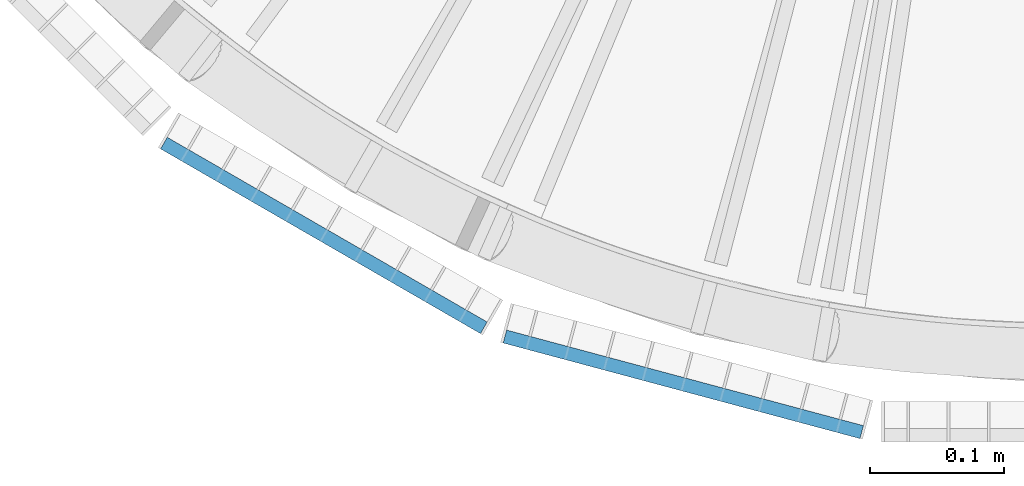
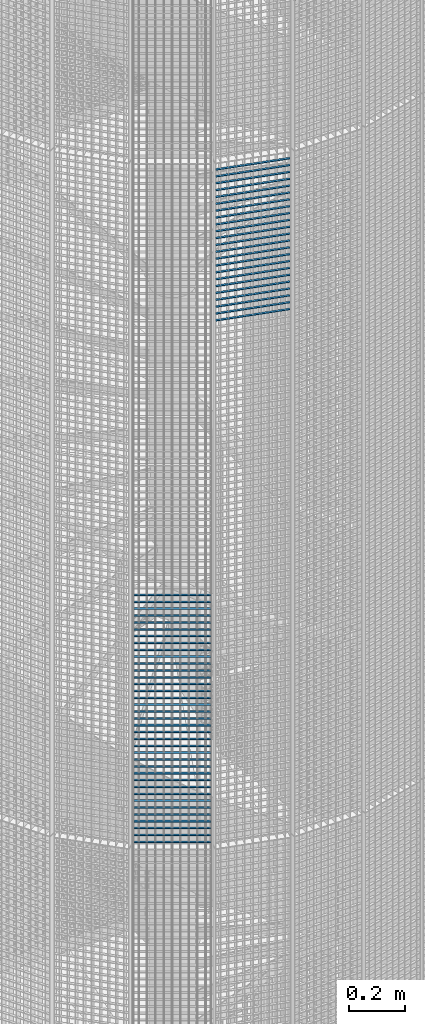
# One storey, part 338 of 1148: 60 beams, 2 elements without a shape of their own.
"""IFC2X3 building model written with IfcOpenShell, lengths in millimetres."""

from ifc_helpers import new_model, si_unit, frame, origin_with_axes, origin_2d_with_axis, place, context, subcontext, project, spatial, rectangle, extrude, material, type_object, element, aggregate, save


model = new_model("IFC2X3")

# Units and contexts
model_context = context("Model", 3, precision=1e-05, world=origin_with_axes())
body_context = subcontext(model_context, "Body", "Model", "MODEL_VIEW")
ifc_project = project(units=[si_unit("LENGTHUNIT", "METRE", prefix="MILLI"), si_unit("AREAUNIT", "SQUARE_METRE"), si_unit("VOLUMEUNIT", "CUBIC_METRE"), si_unit("MASSUNIT", "GRAM", prefix="KILO"), si_unit("TIMEUNIT", "SECOND"), si_unit("PLANEANGLEUNIT", "RADIAN"), si_unit("SOLIDANGLEUNIT", "STERADIAN"), si_unit("THERMODYNAMICTEMPERATUREUNIT", "DEGREE_CELSIUS"), si_unit("LUMINOUSINTENSITYUNIT", "LUMEN")], contexts=[model_context])

# Site, building, storey
site_placement = place(None, origin_with_axes())
site = spatial("IfcSite", under=ifc_project, at=site_placement, Name="Undefined", CompositionType="ELEMENT")
building_placement = place(site_placement, origin_with_axes())
building = spatial("IfcBuilding", under=site, at=building_placement, Name="Undefined", CompositionType="ELEMENT")
storey_placement = place(building_placement, origin_with_axes())
storey = spatial("IfcBuildingStorey", under=building, at=storey_placement, Name="Undefined", CompositionType="ELEMENT", Elevation=0.0)

# Assembly, beams
assembly_1_placement = place(storey_placement, origin_with_axes())
assembly_1 = element("IfcElementAssembly", 1, at=assembly_1_placement, inside=storey, Name="BORDURE", AssemblyPlace="NOTDEFINED", PredefinedType="NOTDEFINED")
ifc_material = material(Name="STEEL/S235JR")
beam_type = type_object("IfcBeamType", Name="PL2*10", PredefinedType="NOTDEFINED")
beam_1_placement = place(assembly_1_placement, frame((21162.7680445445, -1033.29996828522, 12720.0), z_axis=(-0.49999999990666, -0.866025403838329, 0.0), x_axis=(-0.866025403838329, 0.499999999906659, 0.0)))
beam_1 = element("IfcBeam", 2, at=beam_1_placement, type_object=beam_type, material=ifc_material, Name="ENTRETOISE", context=body_context, shape_type="SweptSolid", body=[
    extrude(rectangle(XDim=2.0, YDim=10.0, at=origin_2d_with_axis()), frame((275.999999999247, 9.09494701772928e-13, 1.53210777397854e-14), z_axis=(-1.0, 0.0, 0.0), x_axis=(0.0, -1.0, 0.0)), (0.0, 0.0, 1.0), 276.0),
])
beam_2_placement = place(assembly_1_placement, frame((21162.7680445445, -1033.29996828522, 12690.0), z_axis=(-0.49999999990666, -0.866025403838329, 0.0), x_axis=(-0.866025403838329, 0.499999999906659, 0.0)))
beam_2 = element("IfcBeam", 3, at=beam_2_placement, type_object=beam_type, material=ifc_material, Name="ENTRETOISE", context=body_context, shape_type="SweptSolid", body=[
    extrude(rectangle(XDim=2.0, YDim=10.0, at=origin_2d_with_axis()), frame((275.999999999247, 9.09494701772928e-13, 1.53210777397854e-14), z_axis=(-1.0, 0.0, 0.0), x_axis=(0.0, -1.0, 0.0)), (0.0, 0.0, 1.0), 276.0),
])
beam_3_placement = place(assembly_1_placement, frame((21162.7680445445, -1033.29996828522, 12750.0), z_axis=(-0.49999999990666, -0.866025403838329, 0.0), x_axis=(-0.866025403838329, 0.499999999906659, 0.0)))
beam_3 = element("IfcBeam", 4, at=beam_3_placement, type_object=beam_type, material=ifc_material, Name="ENTRETOISE", context=body_context, shape_type="SweptSolid", body=[
    extrude(rectangle(XDim=2.0, YDim=10.0, at=origin_2d_with_axis()), frame((275.999999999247, 9.09494701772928e-13, 1.53210777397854e-14), z_axis=(-1.0, 0.0, 0.0), x_axis=(0.0, -1.0, 0.0)), (0.0, 0.0, 1.0), 276.0),
])
beam_4_placement = place(assembly_1_placement, frame((21162.7680445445, -1033.29996828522, 12660.0), z_axis=(-0.49999999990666, -0.866025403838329, 0.0), x_axis=(-0.866025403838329, 0.499999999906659, 0.0)))
beam_4 = element("IfcBeam", 5, at=beam_4_placement, type_object=beam_type, material=ifc_material, Name="ENTRETOISE", context=body_context, shape_type="SweptSolid", body=[
    extrude(rectangle(XDim=2.0, YDim=10.0, at=origin_2d_with_axis()), frame((275.999999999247, 9.09494701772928e-13, 1.53210777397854e-14), z_axis=(-1.0, 0.0, 0.0), x_axis=(0.0, -1.0, 0.0)), (0.0, 0.0, 1.0), 276.0),
])
beam_5_placement = place(assembly_1_placement, frame((21162.7680445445, -1033.29996828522, 12630.0), z_axis=(-0.49999999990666, -0.866025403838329, 0.0), x_axis=(-0.866025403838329, 0.499999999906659, 0.0)))
beam_5 = element("IfcBeam", 6, at=beam_5_placement, type_object=beam_type, material=ifc_material, Name="ENTRETOISE", context=body_context, shape_type="SweptSolid", body=[
    extrude(rectangle(XDim=2.0, YDim=10.0, at=origin_2d_with_axis()), frame((275.999999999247, 9.09494701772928e-13, 1.53210777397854e-14), z_axis=(-1.0, 0.0, 0.0), x_axis=(0.0, -1.0, 0.0)), (0.0, 0.0, 1.0), 276.0),
])
beam_6_placement = place(assembly_1_placement, frame((21162.7680445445, -1033.29996828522, 12780.0), z_axis=(-0.49999999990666, -0.866025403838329, 0.0), x_axis=(-0.866025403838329, 0.499999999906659, 0.0)))
beam_6 = element("IfcBeam", 7, at=beam_6_placement, type_object=beam_type, material=ifc_material, Name="ENTRETOISE", context=body_context, shape_type="SweptSolid", body=[
    extrude(rectangle(XDim=2.0, YDim=10.0, at=origin_2d_with_axis()), frame((275.999999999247, 9.09494701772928e-13, 1.53210777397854e-14), z_axis=(-1.0, 0.0, 0.0), x_axis=(0.0, -1.0, 0.0)), (0.0, 0.0, 1.0), 276.0),
])
beam_7_placement = place(assembly_1_placement, frame((21162.7680445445, -1033.29996828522, 12600.0), z_axis=(-0.49999999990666, -0.866025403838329, 0.0), x_axis=(-0.866025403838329, 0.499999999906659, 0.0)))
beam_7 = element("IfcBeam", 8, at=beam_7_placement, type_object=beam_type, material=ifc_material, Name="ENTRETOISE", context=body_context, shape_type="SweptSolid", body=[
    extrude(rectangle(XDim=2.0, YDim=10.0, at=origin_2d_with_axis()), frame((275.999999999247, 9.09494701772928e-13, 1.53210777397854e-14), z_axis=(-1.0, 0.0, 0.0), x_axis=(0.0, -1.0, 0.0)), (0.0, 0.0, 1.0), 276.0),
])
beam_8_placement = place(assembly_1_placement, frame((21162.7680445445, -1033.29996828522, 12810.0), z_axis=(-0.49999999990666, -0.866025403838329, 0.0), x_axis=(-0.866025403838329, 0.499999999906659, 0.0)))
beam_8 = element("IfcBeam", 9, at=beam_8_placement, type_object=beam_type, material=ifc_material, Name="ENTRETOISE", context=body_context, shape_type="SweptSolid", body=[
    extrude(rectangle(XDim=2.0, YDim=10.0, at=origin_2d_with_axis()), frame((275.999999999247, 9.09494701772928e-13, 1.53210777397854e-14), z_axis=(-1.0, 0.0, 0.0), x_axis=(0.0, -1.0, 0.0)), (0.0, 0.0, 1.0), 276.0),
])
beam_9_placement = place(assembly_1_placement, frame((21162.7680445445, -1033.29996828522, 12570.0), z_axis=(-0.49999999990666, -0.866025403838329, 0.0), x_axis=(-0.866025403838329, 0.499999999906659, 0.0)))
beam_9 = element("IfcBeam", 10, at=beam_9_placement, type_object=beam_type, material=ifc_material, Name="ENTRETOISE", context=body_context, shape_type="SweptSolid", body=[
    extrude(rectangle(XDim=2.0, YDim=10.0, at=origin_2d_with_axis()), frame((275.999999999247, 9.09494701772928e-13, 1.53210777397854e-14), z_axis=(-1.0, 0.0, 0.0), x_axis=(0.0, -1.0, 0.0)), (0.0, 0.0, 1.0), 276.0),
])
beam_10_placement = place(assembly_1_placement, frame((21162.7680445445, -1033.29996828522, 12540.0), z_axis=(-0.49999999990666, -0.866025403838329, 0.0), x_axis=(-0.866025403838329, 0.499999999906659, 0.0)))
beam_10 = element("IfcBeam", 11, at=beam_10_placement, type_object=beam_type, material=ifc_material, Name="ENTRETOISE", context=body_context, shape_type="SweptSolid", body=[
    extrude(rectangle(XDim=2.0, YDim=10.0, at=origin_2d_with_axis()), frame((275.999999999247, 9.09494701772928e-13, 1.53210777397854e-14), z_axis=(-1.0, 0.0, 0.0), x_axis=(0.0, -1.0, 0.0)), (0.0, 0.0, 1.0), 276.0),
])
beam_11_placement = place(assembly_1_placement, frame((21162.7680445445, -1033.29996828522, 12840.0), z_axis=(-0.49999999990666, -0.866025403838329, 0.0), x_axis=(-0.866025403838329, 0.499999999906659, 0.0)))
beam_11 = element("IfcBeam", 12, at=beam_11_placement, type_object=beam_type, material=ifc_material, Name="ENTRETOISE", context=body_context, shape_type="SweptSolid", body=[
    extrude(rectangle(XDim=2.0, YDim=10.0, at=origin_2d_with_axis()), frame((275.999999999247, 9.09494701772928e-13, 1.53210777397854e-14), z_axis=(-1.0, 0.0, 0.0), x_axis=(0.0, -1.0, 0.0)), (0.0, 0.0, 1.0), 276.0),
])
beam_12_placement = place(assembly_1_placement, frame((21162.7680445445, -1033.29996828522, 12510.0), z_axis=(-0.49999999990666, -0.866025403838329, 0.0), x_axis=(-0.866025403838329, 0.499999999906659, 0.0)))
beam_12 = element("IfcBeam", 13, at=beam_12_placement, type_object=beam_type, material=ifc_material, Name="ENTRETOISE", context=body_context, shape_type="SweptSolid", body=[
    extrude(rectangle(XDim=2.0, YDim=10.0, at=origin_2d_with_axis()), frame((275.999999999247, 9.09494701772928e-13, 1.53210777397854e-14), z_axis=(-1.0, 0.0, 0.0), x_axis=(0.0, -1.0, 0.0)), (0.0, 0.0, 1.0), 276.0),
])
beam_13_placement = place(assembly_1_placement, frame((21162.7680445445, -1033.29996828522, 12480.0), z_axis=(-0.49999999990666, -0.866025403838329, 0.0), x_axis=(-0.866025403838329, 0.499999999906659, 0.0)))
beam_13 = element("IfcBeam", 14, at=beam_13_placement, type_object=beam_type, material=ifc_material, Name="ENTRETOISE", context=body_context, shape_type="SweptSolid", body=[
    extrude(rectangle(XDim=2.0, YDim=10.0, at=origin_2d_with_axis()), frame((275.999999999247, 9.09494701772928e-13, 1.53210777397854e-14), z_axis=(-1.0, 0.0, 0.0), x_axis=(0.0, -1.0, 0.0)), (0.0, 0.0, 1.0), 276.0),
])
beam_14_placement = place(assembly_1_placement, frame((21162.7680445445, -1033.29996828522, 12870.0), z_axis=(-0.49999999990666, -0.866025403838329, 0.0), x_axis=(-0.866025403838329, 0.499999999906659, 0.0)))
beam_14 = element("IfcBeam", 15, at=beam_14_placement, type_object=beam_type, material=ifc_material, Name="ENTRETOISE", context=body_context, shape_type="SweptSolid", body=[
    extrude(rectangle(XDim=2.0, YDim=10.0, at=origin_2d_with_axis()), frame((275.999999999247, 9.09494701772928e-13, 1.53210777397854e-14), z_axis=(-1.0, 0.0, 0.0), x_axis=(0.0, -1.0, 0.0)), (0.0, 0.0, 1.0), 276.0),
])
beam_15_placement = place(assembly_1_placement, frame((21162.7680445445, -1033.29996828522, 12450.0), z_axis=(-0.49999999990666, -0.866025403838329, 0.0), x_axis=(-0.866025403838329, 0.499999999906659, 0.0)))
beam_15 = element("IfcBeam", 16, at=beam_15_placement, type_object=beam_type, material=ifc_material, Name="ENTRETOISE", context=body_context, shape_type="SweptSolid", body=[
    extrude(rectangle(XDim=2.0, YDim=10.0, at=origin_2d_with_axis()), frame((275.999999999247, 9.09494701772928e-13, 1.53210777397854e-14), z_axis=(-1.0, 0.0, 0.0), x_axis=(0.0, -1.0, 0.0)), (0.0, 0.0, 1.0), 276.0),
])
beam_16_placement = place(assembly_1_placement, frame((21162.7680445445, -1033.29996828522, 12420.0), z_axis=(-0.49999999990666, -0.866025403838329, 0.0), x_axis=(-0.866025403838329, 0.499999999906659, 0.0)))
beam_16 = element("IfcBeam", 17, at=beam_16_placement, type_object=beam_type, material=ifc_material, Name="ENTRETOISE", context=body_context, shape_type="SweptSolid", body=[
    extrude(rectangle(XDim=2.0, YDim=10.0, at=origin_2d_with_axis()), frame((275.999999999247, 9.09494701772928e-13, 1.53210777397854e-14), z_axis=(-1.0, 0.0, 0.0), x_axis=(0.0, -1.0, 0.0)), (0.0, 0.0, 1.0), 276.0),
])
beam_17_placement = place(assembly_1_placement, frame((21162.7680445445, -1033.29996828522, 12900.0), z_axis=(-0.49999999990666, -0.866025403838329, 0.0), x_axis=(-0.866025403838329, 0.499999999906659, 0.0)))
beam_17 = element("IfcBeam", 18, at=beam_17_placement, type_object=beam_type, material=ifc_material, Name="ENTRETOISE", context=body_context, shape_type="SweptSolid", body=[
    extrude(rectangle(XDim=2.0, YDim=10.0, at=origin_2d_with_axis()), frame((275.999999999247, 9.09494701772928e-13, 1.53210777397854e-14), z_axis=(-1.0, 0.0, 0.0), x_axis=(0.0, -1.0, 0.0)), (0.0, 0.0, 1.0), 276.0),
])
beam_18_placement = place(assembly_1_placement, frame((21162.7680445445, -1033.29996828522, 12390.0), z_axis=(-0.49999999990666, -0.866025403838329, 0.0), x_axis=(-0.866025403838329, 0.499999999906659, 0.0)))
beam_18 = element("IfcBeam", 19, at=beam_18_placement, type_object=beam_type, material=ifc_material, Name="ENTRETOISE", context=body_context, shape_type="SweptSolid", body=[
    extrude(rectangle(XDim=2.0, YDim=10.0, at=origin_2d_with_axis()), frame((275.999999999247, 9.09494701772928e-13, 1.53210777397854e-14), z_axis=(-1.0, 0.0, 0.0), x_axis=(0.0, -1.0, 0.0)), (0.0, 0.0, 1.0), 276.0),
])
beam_19_placement = place(assembly_1_placement, frame((21162.7680445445, -1033.29996828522, 12930.0), z_axis=(-0.49999999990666, -0.866025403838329, 0.0), x_axis=(-0.866025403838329, 0.499999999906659, 0.0)))
beam_19 = element("IfcBeam", 20, at=beam_19_placement, type_object=beam_type, material=ifc_material, Name="ENTRETOISE", context=body_context, shape_type="SweptSolid", body=[
    extrude(rectangle(XDim=2.0, YDim=10.0, at=origin_2d_with_axis()), frame((275.999999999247, 9.09494701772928e-13, 1.53210777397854e-14), z_axis=(-1.0, 0.0, 0.0), x_axis=(0.0, -1.0, 0.0)), (0.0, 0.0, 1.0), 276.0),
])
beam_20_placement = place(assembly_1_placement, frame((21162.7680445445, -1033.29996828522, 12360.0), z_axis=(-0.49999999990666, -0.866025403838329, 0.0), x_axis=(-0.866025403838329, 0.499999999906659, 0.0)))
beam_20 = element("IfcBeam", 21, at=beam_20_placement, type_object=beam_type, material=ifc_material, Name="ENTRETOISE", context=body_context, shape_type="SweptSolid", body=[
    extrude(rectangle(XDim=2.0, YDim=10.0, at=origin_2d_with_axis()), frame((275.999999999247, 9.09494701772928e-13, 1.53210777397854e-14), z_axis=(-1.0, 0.0, 0.0), x_axis=(0.0, -1.0, 0.0)), (0.0, 0.0, 1.0), 276.0),
])
beam_21_placement = place(assembly_1_placement, frame((21162.7680445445, -1033.29996828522, 12330.0), z_axis=(-0.49999999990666, -0.866025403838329, 0.0), x_axis=(-0.866025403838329, 0.499999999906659, 0.0)))
beam_21 = element("IfcBeam", 22, at=beam_21_placement, type_object=beam_type, material=ifc_material, Name="ENTRETOISE", context=body_context, shape_type="SweptSolid", body=[
    extrude(rectangle(XDim=2.0, YDim=10.0, at=origin_2d_with_axis()), frame((275.999999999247, 9.09494701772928e-13, 1.53210777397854e-14), z_axis=(-1.0, 0.0, 0.0), x_axis=(0.0, -1.0, 0.0)), (0.0, 0.0, 1.0), 276.0),
])
beam_22_placement = place(assembly_1_placement, frame((21162.7680445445, -1033.29996828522, 12960.0), z_axis=(-0.49999999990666, -0.866025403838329, 0.0), x_axis=(-0.866025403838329, 0.499999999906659, 0.0)))
beam_22 = element("IfcBeam", 23, at=beam_22_placement, type_object=beam_type, material=ifc_material, Name="ENTRETOISE", context=body_context, shape_type="SweptSolid", body=[
    extrude(rectangle(XDim=2.0, YDim=10.0, at=origin_2d_with_axis()), frame((275.999999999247, 9.09494701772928e-13, 1.53210777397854e-14), z_axis=(-1.0, 0.0, 0.0), x_axis=(0.0, -1.0, 0.0)), (0.0, 0.0, 1.0), 276.0),
])
beam_23_placement = place(assembly_1_placement, frame((21162.7680445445, -1033.29996828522, 12300.0), z_axis=(-0.49999999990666, -0.866025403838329, 0.0), x_axis=(-0.866025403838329, 0.499999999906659, 0.0)))
beam_23 = element("IfcBeam", 24, at=beam_23_placement, type_object=beam_type, material=ifc_material, Name="ENTRETOISE", context=body_context, shape_type="SweptSolid", body=[
    extrude(rectangle(XDim=2.0, YDim=10.0, at=origin_2d_with_axis()), frame((275.999999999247, 9.09494701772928e-13, 1.53210777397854e-14), z_axis=(-1.0, 0.0, 0.0), x_axis=(0.0, -1.0, 0.0)), (0.0, 0.0, 1.0), 276.0),
])
beam_24_placement = place(assembly_1_placement, frame((21162.7680445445, -1033.29996828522, 12270.0), z_axis=(-0.49999999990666, -0.866025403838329, 0.0), x_axis=(-0.866025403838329, 0.499999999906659, 0.0)))
beam_24 = element("IfcBeam", 25, at=beam_24_placement, type_object=beam_type, material=ifc_material, Name="ENTRETOISE", context=body_context, shape_type="SweptSolid", body=[
    extrude(rectangle(XDim=2.0, YDim=10.0, at=origin_2d_with_axis()), frame((275.999999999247, 9.09494701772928e-13, 1.53210777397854e-14), z_axis=(-1.0, 0.0, 0.0), x_axis=(0.0, -1.0, 0.0)), (0.0, 0.0, 1.0), 276.0),
])
beam_25_placement = place(assembly_1_placement, frame((21162.7680445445, -1033.29996828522, 12990.0), z_axis=(-0.49999999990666, -0.866025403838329, 0.0), x_axis=(-0.866025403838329, 0.499999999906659, 0.0)))
beam_25 = element("IfcBeam", 26, at=beam_25_placement, type_object=beam_type, material=ifc_material, Name="ENTRETOISE", context=body_context, shape_type="SweptSolid", body=[
    extrude(rectangle(XDim=2.0, YDim=10.0, at=origin_2d_with_axis()), frame((275.999999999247, 9.09494701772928e-13, 1.53210777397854e-14), z_axis=(-1.0, 0.0, 0.0), x_axis=(0.0, -1.0, 0.0)), (0.0, 0.0, 1.0), 276.0),
])
beam_26_placement = place(assembly_1_placement, frame((21162.7680445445, -1033.29996828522, 12240.0), z_axis=(-0.49999999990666, -0.866025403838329, 0.0), x_axis=(-0.866025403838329, 0.499999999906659, 0.0)))
beam_26 = element("IfcBeam", 27, at=beam_26_placement, type_object=beam_type, material=ifc_material, Name="ENTRETOISE", context=body_context, shape_type="SweptSolid", body=[
    extrude(rectangle(XDim=2.0, YDim=10.0, at=origin_2d_with_axis()), frame((275.999999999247, 9.09494701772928e-13, 1.53210777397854e-14), z_axis=(-1.0, 0.0, 0.0), x_axis=(0.0, -1.0, 0.0)), (0.0, 0.0, 1.0), 276.0),
])
beam_27_placement = place(assembly_1_placement, frame((21162.7680445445, -1033.29996828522, 13020.0), z_axis=(-0.49999999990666, -0.866025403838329, 0.0), x_axis=(-0.866025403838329, 0.499999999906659, 0.0)))
beam_27 = element("IfcBeam", 28, at=beam_27_placement, type_object=beam_type, material=ifc_material, Name="ENTRETOISE", context=body_context, shape_type="SweptSolid", body=[
    extrude(rectangle(XDim=2.0, YDim=10.0, at=origin_2d_with_axis()), frame((275.999999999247, 9.09494701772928e-13, 1.53210777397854e-14), z_axis=(-1.0, 0.0, 0.0), x_axis=(0.0, -1.0, 0.0)), (0.0, 0.0, 1.0), 276.0),
])
beam_28_placement = place(assembly_1_placement, frame((21162.7680445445, -1033.29996828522, 12210.0), z_axis=(-0.49999999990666, -0.866025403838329, 0.0), x_axis=(-0.866025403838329, 0.499999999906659, 0.0)))
beam_28 = element("IfcBeam", 29, at=beam_28_placement, type_object=beam_type, material=ifc_material, Name="ENTRETOISE", context=body_context, shape_type="SweptSolid", body=[
    extrude(rectangle(XDim=2.0, YDim=10.0, at=origin_2d_with_axis()), frame((275.999999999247, 9.09494701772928e-13, 1.53210777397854e-14), z_axis=(-1.0, 0.0, 0.0), x_axis=(0.0, -1.0, 0.0)), (0.0, 0.0, 1.0), 276.0),
])
beam_29_placement = place(assembly_1_placement, frame((21162.7680445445, -1033.29996828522, 12180.0), z_axis=(-0.49999999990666, -0.866025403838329, 0.0), x_axis=(-0.866025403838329, 0.499999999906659, 0.0)))
beam_29 = element("IfcBeam", 30, at=beam_29_placement, type_object=beam_type, material=ifc_material, Name="ENTRETOISE", context=body_context, shape_type="SweptSolid", body=[
    extrude(rectangle(XDim=2.0, YDim=10.0, at=origin_2d_with_axis()), frame((275.999999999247, 9.09494701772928e-13, 1.53210777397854e-14), z_axis=(-1.0, 0.0, 0.0), x_axis=(0.0, -1.0, 0.0)), (0.0, 0.0, 1.0), 276.0),
])
beam_30_placement = place(assembly_1_placement, frame((21162.7680445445, -1033.29996828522, 13050.0), z_axis=(-0.49999999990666, -0.866025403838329, 0.0), x_axis=(-0.866025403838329, 0.499999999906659, 0.0)))
beam_30 = element("IfcBeam", 31, at=beam_30_placement, type_object=beam_type, material=ifc_material, Name="ENTRETOISE", context=body_context, shape_type="SweptSolid", body=[
    extrude(rectangle(XDim=2.0, YDim=10.0, at=origin_2d_with_axis()), frame((275.999999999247, 9.09494701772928e-13, 1.53210777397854e-14), z_axis=(-1.0, 0.0, 0.0), x_axis=(0.0, -1.0, 0.0)), (0.0, 0.0, 1.0), 276.0),
])
beam_31_placement = place(assembly_1_placement, frame((21162.7680445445, -1033.29996828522, 12150.0), z_axis=(-0.49999999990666, -0.866025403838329, 0.0), x_axis=(-0.866025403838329, 0.499999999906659, 0.0)))
beam_31 = element("IfcBeam", 32, at=beam_31_placement, type_object=beam_type, material=ifc_material, Name="ENTRETOISE", context=body_context, shape_type="SweptSolid", body=[
    extrude(rectangle(XDim=2.0, YDim=10.0, at=origin_2d_with_axis()), frame((275.999999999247, 9.09494701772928e-13, 1.53210777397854e-14), z_axis=(-1.0, 0.0, 0.0), x_axis=(0.0, -1.0, 0.0)), (0.0, 0.0, 1.0), 276.0),
])
beam_32_placement = place(assembly_1_placement, frame((21162.7680445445, -1033.29996828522, 12120.0), z_axis=(-0.49999999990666, -0.866025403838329, 0.0), x_axis=(-0.866025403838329, 0.499999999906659, 0.0)))
beam_32 = element("IfcBeam", 33, at=beam_32_placement, type_object=beam_type, material=ifc_material, Name="ENTRETOISE", context=body_context, shape_type="SweptSolid", body=[
    extrude(rectangle(XDim=2.0, YDim=10.0, at=origin_2d_with_axis()), frame((275.999999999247, 9.09494701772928e-13, 1.53210777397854e-14), z_axis=(-1.0, 0.0, 0.0), x_axis=(0.0, -1.0, 0.0)), (0.0, 0.0, 1.0), 276.0),
])
beam_33_placement = place(assembly_1_placement, frame((21162.7680445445, -1033.29996828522, 13080.0), z_axis=(-0.49999999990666, -0.866025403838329, 0.0), x_axis=(-0.866025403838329, 0.499999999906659, 0.0)))
beam_33 = element("IfcBeam", 34, at=beam_33_placement, type_object=beam_type, material=ifc_material, Name="ENTRETOISE", context=body_context, shape_type="SweptSolid", body=[
    extrude(rectangle(XDim=2.0, YDim=10.0, at=origin_2d_with_axis()), frame((275.999999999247, 9.09494701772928e-13, 1.53210777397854e-14), z_axis=(-1.0, 0.0, 0.0), x_axis=(0.0, -1.0, 0.0)), (0.0, 0.0, 1.0), 276.0),
])
beam_34_placement = place(assembly_1_placement, frame((21162.7680445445, -1033.29996828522, 12090.0), z_axis=(-0.49999999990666, -0.866025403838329, 0.0), x_axis=(-0.866025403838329, 0.499999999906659, 0.0)))
beam_34 = element("IfcBeam", 35, at=beam_34_placement, type_object=beam_type, material=ifc_material, Name="ENTRETOISE", context=body_context, shape_type="SweptSolid", body=[
    extrude(rectangle(XDim=2.0, YDim=10.0, at=origin_2d_with_axis()), frame((275.999999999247, 9.09494701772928e-13, 1.53210777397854e-14), z_axis=(-1.0, 0.0, 0.0), x_axis=(0.0, -1.0, 0.0)), (0.0, 0.0, 1.0), 276.0),
])
beam_35_placement = place(assembly_1_placement, frame((21162.7680445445, -1033.29996828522, 12060.0), z_axis=(-0.49999999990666, -0.866025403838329, 0.0), x_axis=(-0.866025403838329, 0.499999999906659, 0.0)))
beam_35 = element("IfcBeam", 36, at=beam_35_placement, type_object=beam_type, material=ifc_material, Name="ENTRETOISE", context=body_context, shape_type="SweptSolid", body=[
    extrude(rectangle(XDim=2.0, YDim=10.0, at=origin_2d_with_axis()), frame((275.999999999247, 9.09494701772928e-13, 1.53210777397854e-14), z_axis=(-1.0, 0.0, 0.0), x_axis=(0.0, -1.0, 0.0)), (0.0, 0.0, 1.0), 276.0),
])
beam_36_placement = place(assembly_1_placement, frame((21162.7680445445, -1033.29996828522, 13110.0), z_axis=(-0.49999999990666, -0.866025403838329, 0.0), x_axis=(-0.866025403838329, 0.499999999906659, 0.0)))
beam_36 = element("IfcBeam", 37, at=beam_36_placement, type_object=beam_type, material=ifc_material, Name="ENTRETOISE", context=body_context, shape_type="SweptSolid", body=[
    extrude(rectangle(XDim=2.0, YDim=10.0, at=origin_2d_with_axis()), frame((275.999999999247, 9.09494701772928e-13, 1.53210777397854e-14), z_axis=(-1.0, 0.0, 0.0), x_axis=(0.0, -1.0, 0.0)), (0.0, 0.0, 1.0), 276.0),
])
beam_37_placement = place(assembly_1_placement, frame((21162.7680445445, -1033.29996828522, 12030.0), z_axis=(-0.49999999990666, -0.866025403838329, 0.0), x_axis=(-0.866025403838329, 0.499999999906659, 0.0)))
beam_37 = element("IfcBeam", 38, at=beam_37_placement, type_object=beam_type, material=ifc_material, Name="ENTRETOISE", context=body_context, shape_type="SweptSolid", body=[
    extrude(rectangle(XDim=2.0, YDim=10.0, at=origin_2d_with_axis()), frame((275.999999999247, 9.09494701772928e-13, 1.53210777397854e-14), z_axis=(-1.0, 0.0, 0.0), x_axis=(0.0, -1.0, 0.0)), (0.0, 0.0, 1.0), 276.0),
])
aggregate(assembly_1, [beam_1, beam_2, beam_3, beam_4, beam_5, beam_6, beam_7, beam_8, beam_9, beam_10, beam_11, beam_12, beam_13, beam_14, beam_15, beam_16, beam_17, beam_18, beam_19, beam_20, beam_21, beam_22, beam_23, beam_24, beam_25, beam_26, beam_27, beam_28, beam_29, beam_30, beam_31, beam_32, beam_33, beam_34, beam_35, beam_36, beam_37])

assembly_2_placement = place(storey_placement, origin_with_axes())
assembly_2 = element("IfcElementAssembly", 39, at=assembly_2_placement, inside=storey, Name="BORDURE", AssemblyPlace="NOTDEFINED", PredefinedType="NOTDEFINED")
beam_38_placement = place(assembly_2_placement, frame((21445.1040732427, -1111.25508286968, 14970.0), z_axis=(-0.258819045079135, -0.965925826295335, 0.0), x_axis=(-0.965925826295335, 0.258819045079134, 0.0)))
beam_38 = element("IfcBeam", 40, at=beam_38_placement, type_object=beam_type, material=ifc_material, Name="ENTRETOISE", context=body_context, shape_type="SweptSolid", body=[
    extrude(rectangle(XDim=2.0, YDim=10.0, at=origin_2d_with_axis()), frame((275.999999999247, 9.09494701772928e-13, 1.53210777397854e-14), z_axis=(-1.0, 0.0, 0.0), x_axis=(0.0, -1.0, 0.0)), (0.0, 0.0, 1.0), 276.0),
])
beam_39_placement = place(assembly_2_placement, frame((21445.1040732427, -1111.25508286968, 14940.0), z_axis=(-0.258819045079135, -0.965925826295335, 0.0), x_axis=(-0.965925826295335, 0.258819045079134, 0.0)))
beam_39 = element("IfcBeam", 41, at=beam_39_placement, type_object=beam_type, material=ifc_material, Name="ENTRETOISE", context=body_context, shape_type="SweptSolid", body=[
    extrude(rectangle(XDim=2.0, YDim=10.0, at=origin_2d_with_axis()), frame((275.999999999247, 9.09494701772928e-13, 1.53210777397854e-14), z_axis=(-1.0, 0.0, 0.0), x_axis=(0.0, -1.0, 0.0)), (0.0, 0.0, 1.0), 276.0),
])
beam_40_placement = place(assembly_2_placement, frame((21445.1040732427, -1111.25508286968, 14910.0), z_axis=(-0.258819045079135, -0.965925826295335, 0.0), x_axis=(-0.965925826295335, 0.258819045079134, 0.0)))
beam_40 = element("IfcBeam", 42, at=beam_40_placement, type_object=beam_type, material=ifc_material, Name="ENTRETOISE", context=body_context, shape_type="SweptSolid", body=[
    extrude(rectangle(XDim=2.0, YDim=10.0, at=origin_2d_with_axis()), frame((275.999999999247, 9.09494701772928e-13, 1.53210777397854e-14), z_axis=(-1.0, 0.0, 0.0), x_axis=(0.0, -1.0, 0.0)), (0.0, 0.0, 1.0), 276.0),
])
beam_41_placement = place(assembly_2_placement, frame((21445.1040732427, -1111.25508286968, 14880.0), z_axis=(-0.258819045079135, -0.965925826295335, 0.0), x_axis=(-0.965925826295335, 0.258819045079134, 0.0)))
beam_41 = element("IfcBeam", 43, at=beam_41_placement, type_object=beam_type, material=ifc_material, Name="ENTRETOISE", context=body_context, shape_type="SweptSolid", body=[
    extrude(rectangle(XDim=2.0, YDim=10.0, at=origin_2d_with_axis()), frame((275.999999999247, 9.09494701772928e-13, 1.53210777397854e-14), z_axis=(-1.0, 0.0, 0.0), x_axis=(0.0, -1.0, 0.0)), (0.0, 0.0, 1.0), 276.0),
])
beam_42_placement = place(assembly_2_placement, frame((21445.1040732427, -1111.25508286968, 14850.0), z_axis=(-0.258819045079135, -0.965925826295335, 0.0), x_axis=(-0.965925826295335, 0.258819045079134, 0.0)))
beam_42 = element("IfcBeam", 44, at=beam_42_placement, type_object=beam_type, material=ifc_material, Name="ENTRETOISE", context=body_context, shape_type="SweptSolid", body=[
    extrude(rectangle(XDim=2.0, YDim=10.0, at=origin_2d_with_axis()), frame((275.999999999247, 9.09494701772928e-13, 1.53210777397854e-14), z_axis=(-1.0, 0.0, 0.0), x_axis=(0.0, -1.0, 0.0)), (0.0, 0.0, 1.0), 276.0),
])
beam_43_placement = place(assembly_2_placement, frame((21445.1040732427, -1111.25508286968, 14820.0), z_axis=(-0.258819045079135, -0.965925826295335, 0.0), x_axis=(-0.965925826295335, 0.258819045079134, 0.0)))
beam_43 = element("IfcBeam", 45, at=beam_43_placement, type_object=beam_type, material=ifc_material, Name="ENTRETOISE", context=body_context, shape_type="SweptSolid", body=[
    extrude(rectangle(XDim=2.0, YDim=10.0, at=origin_2d_with_axis()), frame((275.999999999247, 9.09494701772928e-13, 1.53210777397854e-14), z_axis=(-1.0, 0.0, 0.0), x_axis=(0.0, -1.0, 0.0)), (0.0, 0.0, 1.0), 276.0),
])
beam_44_placement = place(assembly_2_placement, frame((21445.1040732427, -1111.25508286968, 14790.0), z_axis=(-0.258819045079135, -0.965925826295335, 0.0), x_axis=(-0.965925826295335, 0.258819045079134, 0.0)))
beam_44 = element("IfcBeam", 46, at=beam_44_placement, type_object=beam_type, material=ifc_material, Name="ENTRETOISE", context=body_context, shape_type="SweptSolid", body=[
    extrude(rectangle(XDim=2.0, YDim=10.0, at=origin_2d_with_axis()), frame((275.999999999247, 9.09494701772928e-13, 1.53210777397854e-14), z_axis=(-1.0, 0.0, 0.0), x_axis=(0.0, -1.0, 0.0)), (0.0, 0.0, 1.0), 276.0),
])
beam_45_placement = place(assembly_2_placement, frame((21445.1040732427, -1111.25508286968, 14760.0), z_axis=(-0.258819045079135, -0.965925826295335, 0.0), x_axis=(-0.965925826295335, 0.258819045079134, 0.0)))
beam_45 = element("IfcBeam", 47, at=beam_45_placement, type_object=beam_type, material=ifc_material, Name="ENTRETOISE", context=body_context, shape_type="SweptSolid", body=[
    extrude(rectangle(XDim=2.0, YDim=10.0, at=origin_2d_with_axis()), frame((275.999999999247, 9.09494701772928e-13, 1.53210777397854e-14), z_axis=(-1.0, 0.0, 0.0), x_axis=(0.0, -1.0, 0.0)), (0.0, 0.0, 1.0), 276.0),
])
beam_46_placement = place(assembly_2_placement, frame((21445.1040732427, -1111.25508286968, 14730.0), z_axis=(-0.258819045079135, -0.965925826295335, 0.0), x_axis=(-0.965925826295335, 0.258819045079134, 0.0)))
beam_46 = element("IfcBeam", 48, at=beam_46_placement, type_object=beam_type, material=ifc_material, Name="ENTRETOISE", context=body_context, shape_type="SweptSolid", body=[
    extrude(rectangle(XDim=2.0, YDim=10.0, at=origin_2d_with_axis()), frame((275.999999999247, 9.09494701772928e-13, 1.53210777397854e-14), z_axis=(-1.0, 0.0, 0.0), x_axis=(0.0, -1.0, 0.0)), (0.0, 0.0, 1.0), 276.0),
])
beam_47_placement = place(assembly_2_placement, frame((21445.1040732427, -1111.25508286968, 14700.0), z_axis=(-0.258819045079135, -0.965925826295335, 0.0), x_axis=(-0.965925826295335, 0.258819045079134, 0.0)))
beam_47 = element("IfcBeam", 49, at=beam_47_placement, type_object=beam_type, material=ifc_material, Name="ENTRETOISE", context=body_context, shape_type="SweptSolid", body=[
    extrude(rectangle(XDim=2.0, YDim=10.0, at=origin_2d_with_axis()), frame((275.999999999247, 9.09494701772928e-13, 1.53210777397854e-14), z_axis=(-1.0, 0.0, 0.0), x_axis=(0.0, -1.0, 0.0)), (0.0, 0.0, 1.0), 276.0),
])
beam_48_placement = place(assembly_2_placement, frame((21445.1040732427, -1111.25508286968, 14670.0), z_axis=(-0.258819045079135, -0.965925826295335, 0.0), x_axis=(-0.965925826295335, 0.258819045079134, 0.0)))
beam_48 = element("IfcBeam", 50, at=beam_48_placement, type_object=beam_type, material=ifc_material, Name="ENTRETOISE", context=body_context, shape_type="SweptSolid", body=[
    extrude(rectangle(XDim=2.0, YDim=10.0, at=origin_2d_with_axis()), frame((275.999999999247, 9.09494701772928e-13, 1.53210777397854e-14), z_axis=(-1.0, 0.0, 0.0), x_axis=(0.0, -1.0, 0.0)), (0.0, 0.0, 1.0), 276.0),
])
beam_49_placement = place(assembly_2_placement, frame((21445.1040732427, -1111.25508286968, 14640.0), z_axis=(-0.258819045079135, -0.965925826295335, 0.0), x_axis=(-0.965925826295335, 0.258819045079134, 0.0)))
beam_49 = element("IfcBeam", 51, at=beam_49_placement, type_object=beam_type, material=ifc_material, Name="ENTRETOISE", context=body_context, shape_type="SweptSolid", body=[
    extrude(rectangle(XDim=2.0, YDim=10.0, at=origin_2d_with_axis()), frame((275.999999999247, 9.09494701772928e-13, 1.53210777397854e-14), z_axis=(-1.0, 0.0, 0.0), x_axis=(0.0, -1.0, 0.0)), (0.0, 0.0, 1.0), 276.0),
])
beam_50_placement = place(assembly_2_placement, frame((21445.1040732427, -1111.25508286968, 14610.0), z_axis=(-0.258819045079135, -0.965925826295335, 0.0), x_axis=(-0.965925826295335, 0.258819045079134, 0.0)))
beam_50 = element("IfcBeam", 52, at=beam_50_placement, type_object=beam_type, material=ifc_material, Name="ENTRETOISE", context=body_context, shape_type="SweptSolid", body=[
    extrude(rectangle(XDim=2.0, YDim=10.0, at=origin_2d_with_axis()), frame((275.999999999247, 9.09494701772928e-13, 1.53210777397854e-14), z_axis=(-1.0, 0.0, 0.0), x_axis=(0.0, -1.0, 0.0)), (0.0, 0.0, 1.0), 276.0),
])
beam_51_placement = place(assembly_2_placement, frame((21445.1040732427, -1111.25508286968, 14580.0), z_axis=(-0.258819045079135, -0.965925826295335, 0.0), x_axis=(-0.965925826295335, 0.258819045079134, 0.0)))
beam_51 = element("IfcBeam", 53, at=beam_51_placement, type_object=beam_type, material=ifc_material, Name="ENTRETOISE", context=body_context, shape_type="SweptSolid", body=[
    extrude(rectangle(XDim=2.0, YDim=10.0, at=origin_2d_with_axis()), frame((275.999999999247, 9.09494701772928e-13, 1.53210777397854e-14), z_axis=(-1.0, 0.0, 0.0), x_axis=(0.0, -1.0, 0.0)), (0.0, 0.0, 1.0), 276.0),
])
beam_52_placement = place(assembly_2_placement, frame((21445.1040732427, -1111.25508286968, 14550.0), z_axis=(-0.258819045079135, -0.965925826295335, 0.0), x_axis=(-0.965925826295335, 0.258819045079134, 0.0)))
beam_52 = element("IfcBeam", 54, at=beam_52_placement, type_object=beam_type, material=ifc_material, Name="ENTRETOISE", context=body_context, shape_type="SweptSolid", body=[
    extrude(rectangle(XDim=2.0, YDim=10.0, at=origin_2d_with_axis()), frame((275.999999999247, 9.09494701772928e-13, 1.53210777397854e-14), z_axis=(-1.0, 0.0, 0.0), x_axis=(0.0, -1.0, 0.0)), (0.0, 0.0, 1.0), 276.0),
])
beam_53_placement = place(assembly_2_placement, frame((21445.1040732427, -1111.25508286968, 14520.0), z_axis=(-0.258819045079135, -0.965925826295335, 0.0), x_axis=(-0.965925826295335, 0.258819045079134, 0.0)))
beam_53 = element("IfcBeam", 55, at=beam_53_placement, type_object=beam_type, material=ifc_material, Name="ENTRETOISE", context=body_context, shape_type="SweptSolid", body=[
    extrude(rectangle(XDim=2.0, YDim=10.0, at=origin_2d_with_axis()), frame((275.999999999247, 9.09494701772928e-13, 1.53210777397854e-14), z_axis=(-1.0, 0.0, 0.0), x_axis=(0.0, -1.0, 0.0)), (0.0, 0.0, 1.0), 276.0),
])
beam_54_placement = place(assembly_2_placement, frame((21445.1040732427, -1111.25508286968, 14490.0), z_axis=(-0.258819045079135, -0.965925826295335, 0.0), x_axis=(-0.965925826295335, 0.258819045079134, 0.0)))
beam_54 = element("IfcBeam", 56, at=beam_54_placement, type_object=beam_type, material=ifc_material, Name="ENTRETOISE", context=body_context, shape_type="SweptSolid", body=[
    extrude(rectangle(XDim=2.0, YDim=10.0, at=origin_2d_with_axis()), frame((275.999999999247, 9.09494701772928e-13, 1.53210777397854e-14), z_axis=(-1.0, 0.0, 0.0), x_axis=(0.0, -1.0, 0.0)), (0.0, 0.0, 1.0), 276.0),
])
beam_55_placement = place(assembly_2_placement, frame((21445.1040732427, -1111.25508286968, 14460.0), z_axis=(-0.258819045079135, -0.965925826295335, 0.0), x_axis=(-0.965925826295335, 0.258819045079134, 0.0)))
beam_55 = element("IfcBeam", 57, at=beam_55_placement, type_object=beam_type, material=ifc_material, Name="ENTRETOISE", context=body_context, shape_type="SweptSolid", body=[
    extrude(rectangle(XDim=2.0, YDim=10.0, at=origin_2d_with_axis()), frame((275.999999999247, 9.09494701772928e-13, 1.53210777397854e-14), z_axis=(-1.0, 0.0, 0.0), x_axis=(0.0, -1.0, 0.0)), (0.0, 0.0, 1.0), 276.0),
])
beam_56_placement = place(assembly_2_placement, frame((21445.1040732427, -1111.25508286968, 14430.0), z_axis=(-0.258819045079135, -0.965925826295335, 0.0), x_axis=(-0.965925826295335, 0.258819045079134, 0.0)))
beam_56 = element("IfcBeam", 58, at=beam_56_placement, type_object=beam_type, material=ifc_material, Name="ENTRETOISE", context=body_context, shape_type="SweptSolid", body=[
    extrude(rectangle(XDim=2.0, YDim=10.0, at=origin_2d_with_axis()), frame((275.999999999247, 9.09494701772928e-13, 1.53210777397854e-14), z_axis=(-1.0, 0.0, 0.0), x_axis=(0.0, -1.0, 0.0)), (0.0, 0.0, 1.0), 276.0),
])
beam_57_placement = place(assembly_2_placement, frame((21445.1040732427, -1111.25508286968, 14400.0), z_axis=(-0.258819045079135, -0.965925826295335, 0.0), x_axis=(-0.965925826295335, 0.258819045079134, 0.0)))
beam_57 = element("IfcBeam", 59, at=beam_57_placement, type_object=beam_type, material=ifc_material, Name="ENTRETOISE", context=body_context, shape_type="SweptSolid", body=[
    extrude(rectangle(XDim=2.0, YDim=10.0, at=origin_2d_with_axis()), frame((275.999999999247, 9.09494701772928e-13, 1.53210777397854e-14), z_axis=(-1.0, 0.0, 0.0), x_axis=(0.0, -1.0, 0.0)), (0.0, 0.0, 1.0), 276.0),
])
beam_58_placement = place(assembly_2_placement, frame((21445.1040732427, -1111.25508286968, 14370.0), z_axis=(-0.258819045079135, -0.965925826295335, 0.0), x_axis=(-0.965925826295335, 0.258819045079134, 0.0)))
beam_58 = element("IfcBeam", 60, at=beam_58_placement, type_object=beam_type, material=ifc_material, Name="ENTRETOISE", context=body_context, shape_type="SweptSolid", body=[
    extrude(rectangle(XDim=2.0, YDim=10.0, at=origin_2d_with_axis()), frame((275.999999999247, 9.09494701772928e-13, 1.53210777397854e-14), z_axis=(-1.0, 0.0, 0.0), x_axis=(0.0, -1.0, 0.0)), (0.0, 0.0, 1.0), 276.0),
])
beam_59_placement = place(assembly_2_placement, frame((21445.1040732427, -1111.25508286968, 14340.0), z_axis=(-0.258819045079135, -0.965925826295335, 0.0), x_axis=(-0.965925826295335, 0.258819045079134, 0.0)))
beam_59 = element("IfcBeam", 61, at=beam_59_placement, type_object=beam_type, material=ifc_material, Name="ENTRETOISE", context=body_context, shape_type="SweptSolid", body=[
    extrude(rectangle(XDim=2.0, YDim=10.0, at=origin_2d_with_axis()), frame((275.999999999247, 9.09494701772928e-13, 1.53210777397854e-14), z_axis=(-1.0, 0.0, 0.0), x_axis=(0.0, -1.0, 0.0)), (0.0, 0.0, 1.0), 276.0),
])
beam_60_placement = place(assembly_2_placement, frame((21445.1040732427, -1111.25508286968, 14310.0), z_axis=(-0.258819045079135, -0.965925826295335, 0.0), x_axis=(-0.965925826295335, 0.258819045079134, 0.0)))
beam_60 = element("IfcBeam", 62, at=beam_60_placement, type_object=beam_type, material=ifc_material, Name="ENTRETOISE", context=body_context, shape_type="SweptSolid", body=[
    extrude(rectangle(XDim=2.0, YDim=10.0, at=origin_2d_with_axis()), frame((275.999999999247, 9.09494701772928e-13, 1.53210777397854e-14), z_axis=(-1.0, 0.0, 0.0), x_axis=(0.0, -1.0, 0.0)), (0.0, 0.0, 1.0), 276.0),
])
aggregate(assembly_2, [beam_38, beam_39, beam_40, beam_41, beam_42, beam_43, beam_44, beam_45, beam_46, beam_47, beam_48, beam_49, beam_50, beam_51, beam_52, beam_53, beam_54, beam_55, beam_56, beam_57, beam_58, beam_59, beam_60])

save(model, "model.ifc")
